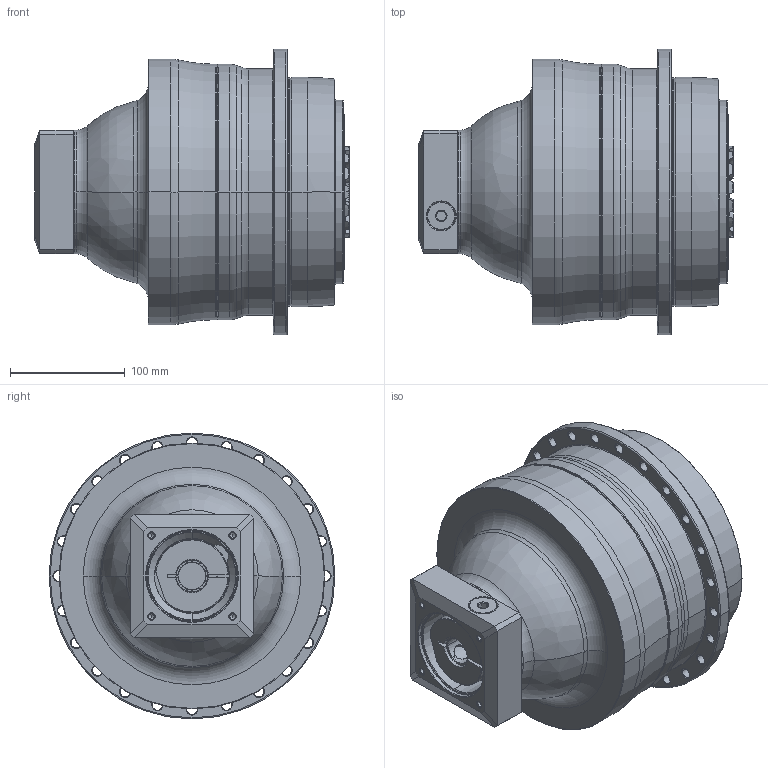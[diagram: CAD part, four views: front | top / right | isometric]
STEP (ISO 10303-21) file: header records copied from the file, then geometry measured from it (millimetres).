
FILE_DESCRIPTION((''),'2;1');
FILE_NAME('APC200_3ST_24-P0409510201_ASM','2018-07-04T',('d01226'),(''),'PRO/ENGINEER BY PARAMETRIC TECHNOLOGY CORPORATION, 2008410','PRO/ENGINEER BY PARAMETRIC TECHNOLOGY CORPORATION, 2008410','');
FILE_SCHEMA(('CONFIG_CONTROL_DESIGN'));
Length unit declared in the file: millimetre
Products named in the file (9): P0278601003; P0359660103; P1366600101; P0503500010; P0912401001; P1211600001; P0409510201; 21711418017; APC200_3ST_24-P0409510201_ASM
Assembly tree (8 placements, depth 2):
  APC200_3ST_24-P0409510201_ASM
    P0278601003
    P0359660103
    P1366600101
    P0503500010
    P0912401001
    P1211600001
    P0409510201
    21711418017
Bounding box: 274.1 x 249.5 x 249.5 mm (x, y, z)
Volume: 7599624.7 mm3; surface area: 516631.4 mm2
Topology: 9 solids, 19 shells, 664 faces, 1600 edges, 973 vertices
Faces by surface type: cone 221, cylinder 205, plane 118, torus 104, bspline 16
Entity records: 24916 total; most frequent: CARTESIAN_POINT 9018, DIRECTION 3559, ORIENTED_EDGE 3122, EDGE_CURVE 1582, AXIS2_PLACEMENT_3D 1545, VERTEX_POINT 973, CIRCLE 870, EDGE_LOOP 763
